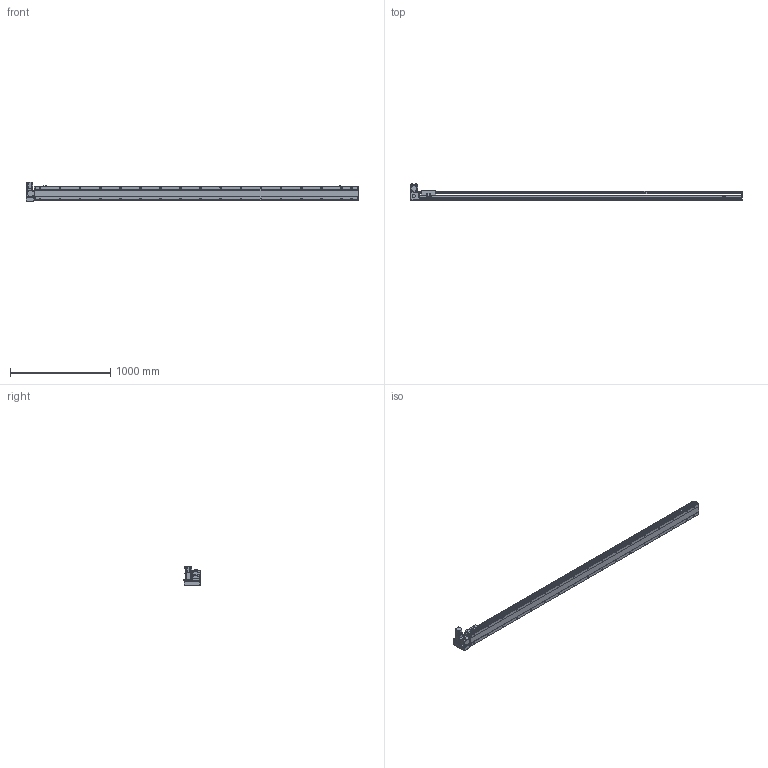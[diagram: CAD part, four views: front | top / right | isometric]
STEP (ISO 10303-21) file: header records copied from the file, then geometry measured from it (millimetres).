
FILE_DESCRIPTION(/* description */ ('STEP AP214'),/* implementation_level */ '2;1');
FILE_NAME(/* name */ 'PBS140S-P40-S2950-LU-T40-C1-N(0)',/* time_stamp */ '2022-06-09T02:37:32+02:00',/* author */ ('License CC BY-ND 4.0'),/* organization */ ('CADENAS'),/* preprocessor_version */ 'ST-DEVELOPER v18.102',/* originating_system */ 'PARTsolutions',/* authorisation */ ' ');
FILE_SCHEMA (('AUTOMOTIVE_DESIGN {1 0 10303 214 3 1 1}'));
Length unit declared in the file: millimetre
Products named in the file (7): PBS140S-P40-S2950-LU-T40-C1-N(0); PBS140S_sensor; PBS140S_plant; PBS140S_sliser; T40-p1; PBS140ST-LU_motors; PBS140S-S2950()_body
Assembly tree (8 placements, depth 2):
  PBS140S-P40-S2950-LU-T40-C1-N(0)
    PBS140S_sensor  x3
    PBS140S_plant
    PBS140S_sliser
    T40-p1
    PBS140ST-LU_motors
    PBS140S-S2950()_body
Bounding box: 3304 x 162.5 x 189.7 mm (x, y, z)
Volume: 15918528.1 mm3; surface area: 2672444.1 mm2
Topology: 8 solids, 8 shells, 1243 faces, 3271 edges, 2139 vertices
Faces by surface type: plane 756, cylinder 417, cone 60, sphere 8, torus 2
Full cylindrical faces by diameter (mm): 3.242 x4, 4 x2, 4.134 x4, 4.4 x8, 4.5 x2, 4.8 x4, 4.917 x42, 5.5 x7, 6 x2, 7 x36, 7.5 x8, 8 x12, 8.5 x4, 10.5 x34, 14 x1, 30 x2, 50 x2
Entity records: 35618 total; most frequent: CARTESIAN_POINT 6824, DIRECTION 5978, ORIENTED_EDGE 5602, EDGE_CURVE 2801, AXIS2_PLACEMENT_3D 2129, VERTEX_POINT 1969, LINE 1720, VECTOR 1720
